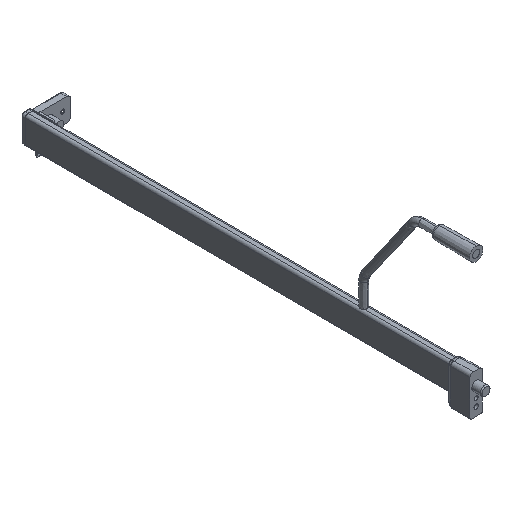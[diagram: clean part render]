
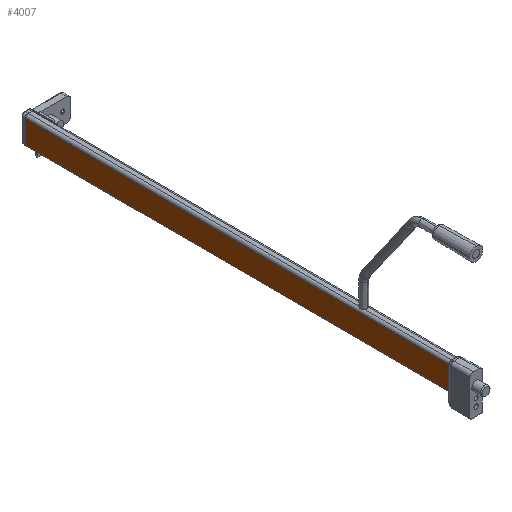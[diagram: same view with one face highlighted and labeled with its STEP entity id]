
A CAD part, isometric view. The second image highlights one B-rep face of the part: STEP entity #4007.
In plain terms, the highlighted planar face has unit normal (-1, 0, 0).
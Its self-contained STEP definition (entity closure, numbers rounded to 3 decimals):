
#19 = CARTESIAN_POINT ( 'NONE',  ( -5.25, 25., 10.5 ) ) ;
#277 = CARTESIAN_POINT ( 'NONE',  ( -5.25, 534.234, -13.679 ) ) ;
#278 = DIRECTION ( 'NONE',  ( 0., -1., -0.004 ) ) ;
#754 = EDGE_CURVE ( 'NONE', #4347, #2055, #2679, .T. ) ;
#755 = EDGE_CURVE ( 'NONE', #3127, #2048, #2681, .T. ) ;
#758 = EDGE_CURVE ( 'NONE', #3127, #4347, #2685, .T. ) ;
#770 = EDGE_CURVE ( 'NONE', #2048, #2055, #2703, .T. ) ;
#1095 = AXIS2_PLACEMENT_3D ( 'NONE', #1192, #1193, #1194 ) ;
#1191 = PLANE ( 'NONE',  #1095 ) ;
#1192 = CARTESIAN_POINT ( 'NONE',  ( -5.25, 534.234, -13.679 ) ) ;
#1193 = DIRECTION ( 'NONE',  ( 1., 0., 0. ) ) ;
#1194 = DIRECTION ( 'NONE',  ( 0., 0., -1. ) ) ;
#1494 = CARTESIAN_POINT ( 'NONE',  ( -5.25, 25., 15. ) ) ;
#1496 = DIRECTION ( 'NONE',  ( 0., 0., -1. ) ) ;
#1498 = CARTESIAN_POINT ( 'NONE',  ( -5.25, 500.4, -13.679 ) ) ;
#1500 = DIRECTION ( 'NONE',  ( 0., 0., -1. ) ) ;
#1510 = CARTESIAN_POINT ( 'NONE',  ( -5.25, 534.141, 12.32 ) ) ;
#1511 = DIRECTION ( 'NONE',  ( 0., -1., -0.004 ) ) ;
#2048 = VERTEX_POINT ( 'NONE', #4960 ) ;
#2055 = VERTEX_POINT ( 'NONE', #4967 ) ;
#2455 = ORIENTED_EDGE ( 'NONE', *, *, #755, .T. ) ;
#2456 = ORIENTED_EDGE ( 'NONE', *, *, #770, .T. ) ;
#2457 = ORIENTED_EDGE ( 'NONE', *, *, #754, .F. ) ;
#2458 = ORIENTED_EDGE ( 'NONE', *, *, #758, .F. ) ;
#2679 = LINE ( 'NONE', #1494, #2680 ) ;
#2680 = VECTOR ( 'NONE', #1496, 1000. ) ;
#2681 = LINE ( 'NONE', #1498, #2682 ) ;
#2682 = VECTOR ( 'NONE', #1500, 1000. ) ;
#2685 = LINE ( 'NONE', #1510, #2686 ) ;
#2686 = VECTOR ( 'NONE', #1511, 1000. ) ;
#2703 = LINE ( 'NONE', #277, #2704 ) ;
#2704 = VECTOR ( 'NONE', #278, 1000. ) ;
#3091 = FACE_OUTER_BOUND ( 'NONE', #4754, .T. ) ;
#3127 = VERTEX_POINT ( 'NONE', #4449 ) ;
#4007 = ADVANCED_FACE ( 'NONE', ( #3091 ), #1191, .F. ) ;
#4347 = VERTEX_POINT ( 'NONE', #19 ) ;
#4449 = CARTESIAN_POINT ( 'NONE',  ( -5.25, 500.4, 12.2 ) ) ;
#4754 = EDGE_LOOP ( 'NONE', ( #2455, #2456, #2457, #2458 ) ) ;
#4960 = CARTESIAN_POINT ( 'NONE',  ( -5.25, 500.4, -13.8 ) ) ;
#4967 = CARTESIAN_POINT ( 'NONE',  ( -5.25, 25., -15.5 ) ) ;
